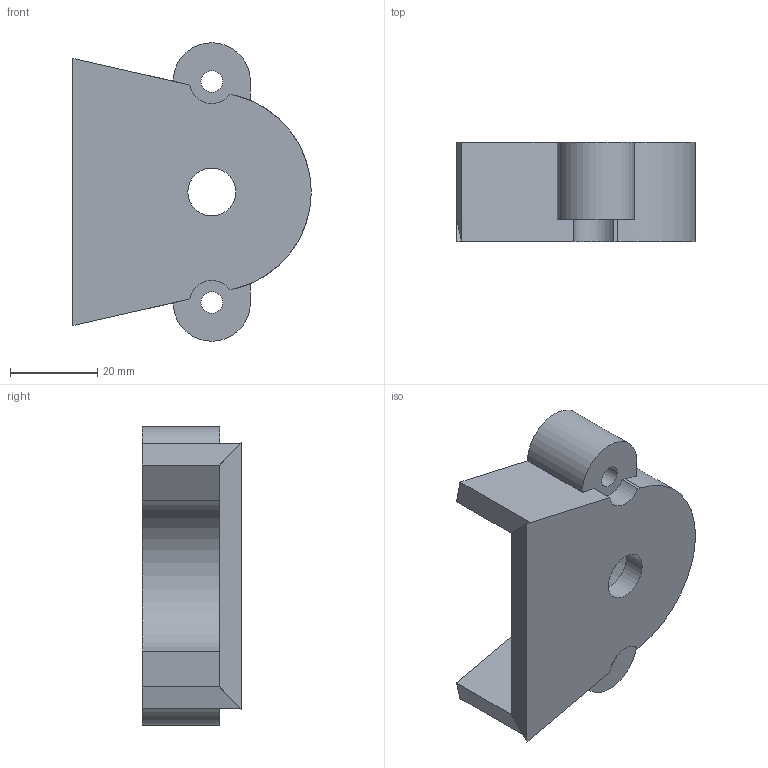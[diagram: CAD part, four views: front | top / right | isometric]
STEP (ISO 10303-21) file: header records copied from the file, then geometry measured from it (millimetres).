
FILE_DESCRIPTION(/* description */ ('STEP AP242 Edition 2','CAx-IF Rec.Pracs.---Representation and Presentation of Product Manufacturing Information (PMI)---4.0---2014-10-13','CAx-IF Rec.Pracs.---3D Tessellated Geometry---0.4---2014-09-14','2;1','CAx-IF Rec.Pracs.---User Defined Attributes---1.5---2016-08-15'),/* implementation_level */ '2;1');
FILE_NAME(/* name */ 'mount and clamp - Sprocket Cover',/* time_stamp */ '2026-05-29T17:27:04Z',/* author */ (''),/* organization */ (''),/* preprocessor_version */ 'ST-DEVELOPER v20',/* originating_system */ 'ONSHAPE BY PTC INC, 1.215',/* authorisation */ ' ');
FILE_SCHEMA (('AP242_MANAGED_MODEL_BASED_3D_ENGINEERING_MIM_LF { 1 0 10303 442 3 1 4 }'));
Length unit declared in the file: metre
Products named in the file (1): Sprocket Cover
Bounding box: 54.82 x 22.86 x 68.58 mm (x, y, z)
Volume: 28816.5 mm3; surface area: 12477.6 mm2
Topology: 1 solids, 1 shells, 27 faces, 70 edges, 45 vertices
Faces by surface type: plane 18, cylinder 9
Full cylindrical faces by diameter (mm): 5 x2, 11 x1
Entity records: 834 total; most frequent: DIRECTION 142, CARTESIAN_POINT 138, ORIENTED_EDGE 132, EDGE_CURVE 66, AXIS2_PLACEMENT_3D 48, LINE 46, VECTOR 46, VERTEX_POINT 44
